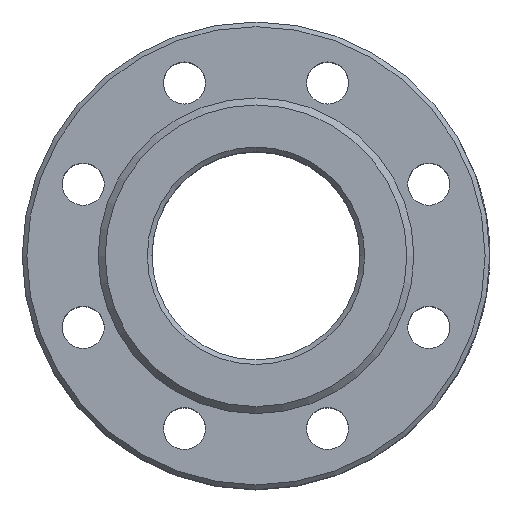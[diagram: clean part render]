
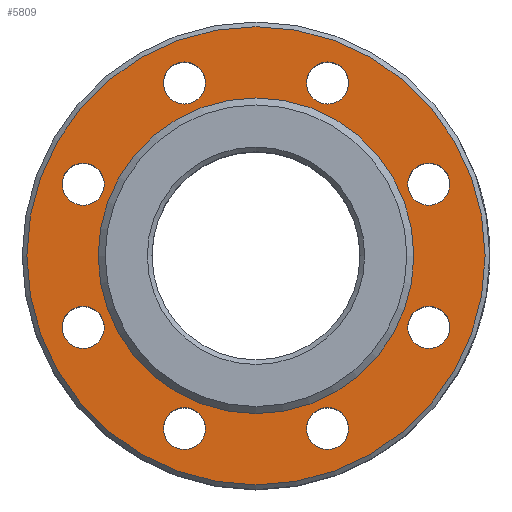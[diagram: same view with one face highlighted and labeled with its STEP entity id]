
A CAD part, top view. The second image highlights one B-rep face of the part: STEP entity #5809.
In plain terms, the highlighted planar face has unit normal (0, 0, 1).
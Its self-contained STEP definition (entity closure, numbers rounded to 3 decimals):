
#236=FACE_BOUND('',#1131,.T.);
#237=FACE_BOUND('',#1132,.T.);
#238=FACE_BOUND('',#1133,.T.);
#239=FACE_BOUND('',#1134,.T.);
#240=FACE_BOUND('',#1135,.T.);
#241=FACE_BOUND('',#1136,.T.);
#242=FACE_BOUND('',#1137,.T.);
#243=FACE_BOUND('',#1138,.T.);
#244=FACE_BOUND('',#1139,.T.);
#475=PLANE('',#6303);
#751=FACE_OUTER_BOUND('',#1130,.T.);
#1130=EDGE_LOOP('',(#4871));
#1131=EDGE_LOOP('',(#4872));
#1132=EDGE_LOOP('',(#4873));
#1133=EDGE_LOOP('',(#4874));
#1134=EDGE_LOOP('',(#4875));
#1135=EDGE_LOOP('',(#4876));
#1136=EDGE_LOOP('',(#4877));
#1137=EDGE_LOOP('',(#4878));
#1138=EDGE_LOOP('',(#4879));
#1139=EDGE_LOOP('',(#4880));
#1616=CIRCLE('',#6302,98.);
#1617=CIRCLE('',#6304,9.);
#1618=CIRCLE('',#6305,9.);
#1619=CIRCLE('',#6306,9.);
#1620=CIRCLE('',#6307,67.5);
#1621=CIRCLE('',#6308,9.);
#1622=CIRCLE('',#6309,9.);
#1623=CIRCLE('',#6310,9.);
#1624=CIRCLE('',#6311,9.);
#1625=CIRCLE('',#6312,9.);
#2743=VERTEX_POINT('',#12312);
#2744=VERTEX_POINT('',#12316);
#2745=VERTEX_POINT('',#12318);
#2746=VERTEX_POINT('',#12320);
#2747=VERTEX_POINT('',#12322);
#2748=VERTEX_POINT('',#12324);
#2749=VERTEX_POINT('',#12326);
#2750=VERTEX_POINT('',#12328);
#2751=VERTEX_POINT('',#12330);
#2752=VERTEX_POINT('',#12332);
#3467=EDGE_CURVE('',#2743,#2743,#1616,.T.);
#3468=EDGE_CURVE('',#2744,#2744,#1617,.T.);
#3469=EDGE_CURVE('',#2745,#2745,#1618,.T.);
#3470=EDGE_CURVE('',#2746,#2746,#1619,.T.);
#3471=EDGE_CURVE('',#2747,#2747,#1620,.T.);
#3472=EDGE_CURVE('',#2748,#2748,#1621,.T.);
#3473=EDGE_CURVE('',#2749,#2749,#1622,.T.);
#3474=EDGE_CURVE('',#2750,#2750,#1623,.T.);
#3475=EDGE_CURVE('',#2751,#2751,#1624,.T.);
#3476=EDGE_CURVE('',#2752,#2752,#1625,.T.);
#4871=ORIENTED_EDGE('',*,*,#3467,.T.);
#4872=ORIENTED_EDGE('',*,*,#3468,.T.);
#4873=ORIENTED_EDGE('',*,*,#3469,.T.);
#4874=ORIENTED_EDGE('',*,*,#3470,.T.);
#4875=ORIENTED_EDGE('',*,*,#3471,.T.);
#4876=ORIENTED_EDGE('',*,*,#3472,.T.);
#4877=ORIENTED_EDGE('',*,*,#3473,.T.);
#4878=ORIENTED_EDGE('',*,*,#3474,.T.);
#4879=ORIENTED_EDGE('',*,*,#3475,.T.);
#4880=ORIENTED_EDGE('',*,*,#3476,.T.);
#5809=ADVANCED_FACE('',(#751,#236,#237,#238,#239,#240,#241,#242,#243,#244),
#475,.F.);
#6302=AXIS2_PLACEMENT_3D('',#12314,#7554,#7555);
#6303=AXIS2_PLACEMENT_3D('',#12315,#7556,#7557);
#6304=AXIS2_PLACEMENT_3D('',#12317,#7558,#7559);
#6305=AXIS2_PLACEMENT_3D('',#12319,#7560,#7561);
#6306=AXIS2_PLACEMENT_3D('',#12321,#7562,#7563);
#6307=AXIS2_PLACEMENT_3D('',#12323,#7564,#7565);
#6308=AXIS2_PLACEMENT_3D('',#12325,#7566,#7567);
#6309=AXIS2_PLACEMENT_3D('',#12327,#7568,#7569);
#6310=AXIS2_PLACEMENT_3D('',#12329,#7570,#7571);
#6311=AXIS2_PLACEMENT_3D('',#12331,#7572,#7573);
#6312=AXIS2_PLACEMENT_3D('',#12333,#7574,#7575);
#7554=DIRECTION('center_axis',(0.,0.,1.));
#7555=DIRECTION('ref_axis',(0.,1.,0.));
#7556=DIRECTION('center_axis',(0.,0.,-1.));
#7557=DIRECTION('ref_axis',(-1.,0.,0.));
#7558=DIRECTION('center_axis',(0.,0.,-1.));
#7559=DIRECTION('ref_axis',(-1.,0.,0.));
#7560=DIRECTION('center_axis',(0.,0.,-1.));
#7561=DIRECTION('ref_axis',(-1.,0.,0.));
#7562=DIRECTION('center_axis',(0.,0.,-1.));
#7563=DIRECTION('ref_axis',(-1.,0.,0.));
#7564=DIRECTION('center_axis',(0.,0.,-1.));
#7565=DIRECTION('ref_axis',(1.,0.,0.));
#7566=DIRECTION('center_axis',(0.,0.,-1.));
#7567=DIRECTION('ref_axis',(-1.,0.,0.));
#7568=DIRECTION('center_axis',(0.,0.,-1.));
#7569=DIRECTION('ref_axis',(-1.,0.,0.));
#7570=DIRECTION('center_axis',(0.,0.,-1.));
#7571=DIRECTION('ref_axis',(-1.,0.,0.));
#7572=DIRECTION('center_axis',(0.,0.,-1.));
#7573=DIRECTION('ref_axis',(-1.,0.,0.));
#7574=DIRECTION('center_axis',(0.,0.,-1.));
#7575=DIRECTION('ref_axis',(-1.,0.,0.));
#12312=CARTESIAN_POINT('',(0.,-98.,52.));
#12314=CARTESIAN_POINT('Origin',(0.,0.,52.));
#12315=CARTESIAN_POINT('Origin',(0.,0.,52.));
#12316=CARTESIAN_POINT('',(82.91,30.615,52.));
#12317=CARTESIAN_POINT('Origin',(73.91,30.615,52.));
#12318=CARTESIAN_POINT('',(39.615,73.91,52.));
#12319=CARTESIAN_POINT('Origin',(30.615,73.91,52.));
#12320=CARTESIAN_POINT('',(-21.615,73.91,52.));
#12321=CARTESIAN_POINT('Origin',(-30.615,73.91,52.));
#12322=CARTESIAN_POINT('',(-67.5,0.,52.));
#12323=CARTESIAN_POINT('Origin',(0.,0.,52.));
#12324=CARTESIAN_POINT('',(-64.91,30.615,52.));
#12325=CARTESIAN_POINT('Origin',(-73.91,30.615,52.));
#12326=CARTESIAN_POINT('',(39.615,-73.91,52.));
#12327=CARTESIAN_POINT('Origin',(30.615,-73.91,52.));
#12328=CARTESIAN_POINT('',(-64.91,-30.615,52.));
#12329=CARTESIAN_POINT('Origin',(-73.91,-30.615,52.));
#12330=CARTESIAN_POINT('',(82.91,-30.615,52.));
#12331=CARTESIAN_POINT('Origin',(73.91,-30.615,52.));
#12332=CARTESIAN_POINT('',(-21.615,-73.91,52.));
#12333=CARTESIAN_POINT('Origin',(-30.615,-73.91,52.));
